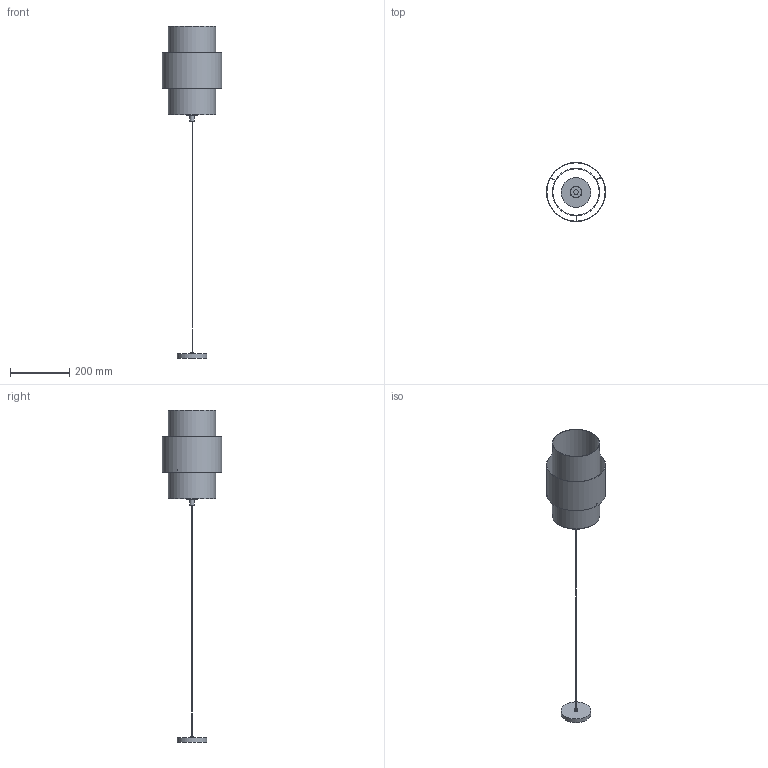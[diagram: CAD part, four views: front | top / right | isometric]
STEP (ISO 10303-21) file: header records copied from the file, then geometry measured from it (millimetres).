
FILE_DESCRIPTION(/* description */ (''),/* implementation_level */ '2;1');
FILE_NAME(/* name */ 'D:\TK Lighting\CALISTO\Calisto 4377.stp',/* time_stamp */ '2020-11-23T10:02:13+01:00',/* author */ ('Admin'),/* organization */ (''),/* preprocessor_version */ 'ST-DEVELOPER v16.5',/* originating_system */ 'Autodesk Inventor 2017',/* authorisation */ '');
FILE_SCHEMA (('AUTOMOTIVE_DESIGN { 1 0 10303 214 3 1 1 }'));
Length unit declared in the file: inch
Products named in the file (3): Calisto 4377; Zawiesie 4377; klosz 4378
Assembly tree (2 placements, depth 2):
  Calisto 4377
    Zawiesie 4377
    klosz 4378
Bounding box: 200 x 200 x 1122 mm (x, y, z)
Volume: 473598.1 mm3; surface area: 493611.9 mm2
Topology: 4 solids, 4 shells, 43 faces, 84 edges, 56 vertices
Faces by surface type: plane 33, cylinder 10
Full cylindrical faces by diameter (mm): 3 x1, 10 x1, 15 x1, 37 x1, 40 x1, 100 x1, 157 x1, 160 x1, 197 x1, 200 x1
Entity records: 1194 total; most frequent: DIRECTION 196, CARTESIAN_POINT 178, ORIENTED_EDGE 154, EDGE_CURVE 74, AXIS2_PLACEMENT_3D 74, EDGE_LOOP 67, VERTEX_POINT 56, LINE 48
